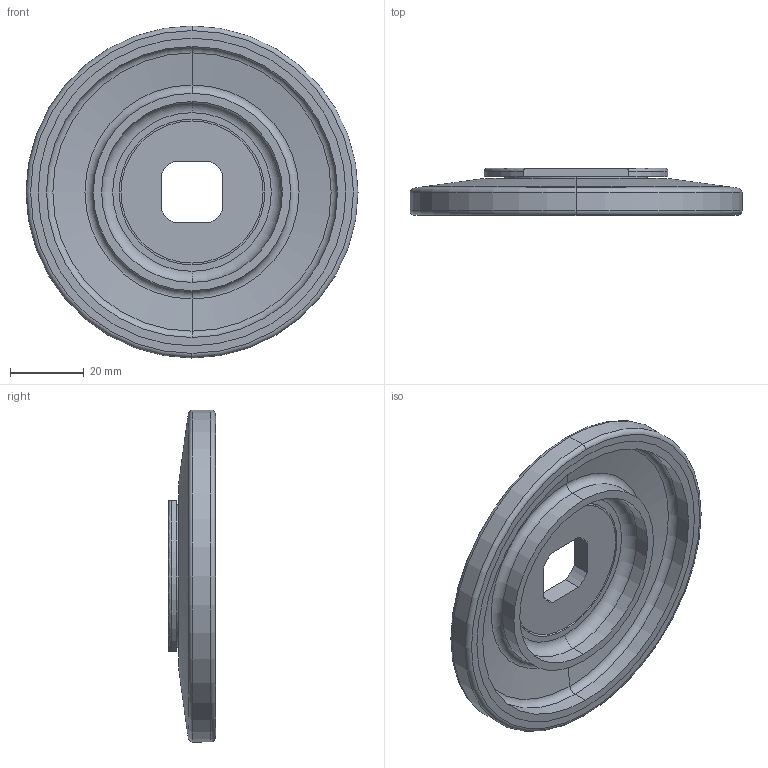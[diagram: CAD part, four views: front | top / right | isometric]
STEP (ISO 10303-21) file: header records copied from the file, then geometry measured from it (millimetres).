
FILE_DESCRIPTION (( 'STEP AP203' ), '1' );
FILE_NAME ('303958_STEP.STEP', '2017-08-24T12:30:17', ( '' ), ( '' ), 'SwSTEP 2.0', 'SolidWorks 2017', '' );
FILE_SCHEMA (( 'CONFIG_CONTROL_DESIGN' ));
Length unit declared in the file: millimetre
Products named in the file (1): 303958_STEP
Bounding box: 90 x 12.75 x 90 mm (x, y, z)
Volume: 28422.3 mm3; surface area: 23529.2 mm2
Topology: 3 solids, 3 shells, 54 faces, 118 edges, 72 vertices
Faces by surface type: cylinder 22, plane 14, torus 12, cone 6
Entity records: 1609 total; most frequent: DIRECTION 292, CARTESIAN_POINT 287, ORIENTED_EDGE 236, AXIS2_PLACEMENT_3D 123, EDGE_CURVE 118, VERTEX_POINT 72, CIRCLE 68, EDGE_LOOP 62
